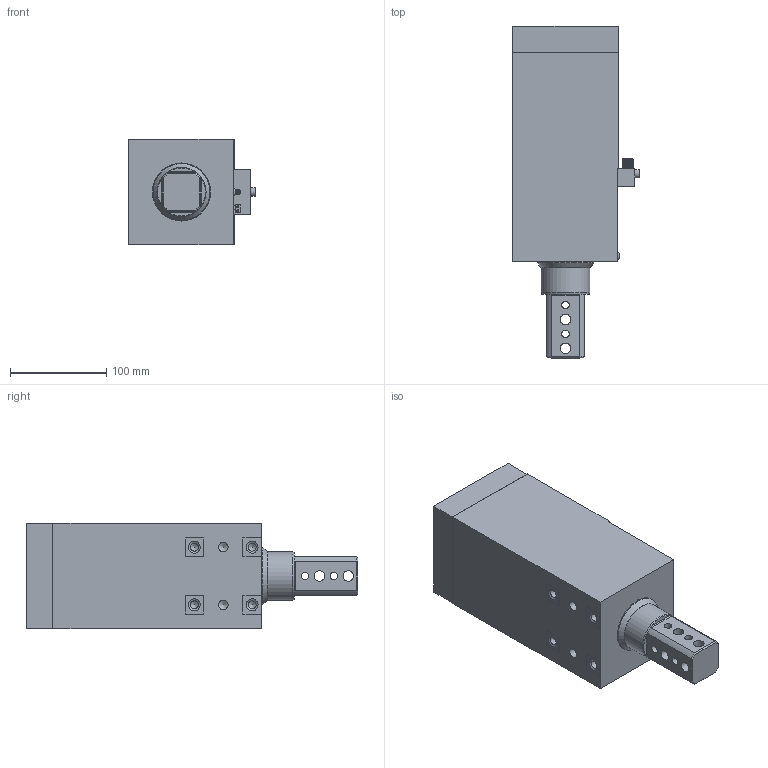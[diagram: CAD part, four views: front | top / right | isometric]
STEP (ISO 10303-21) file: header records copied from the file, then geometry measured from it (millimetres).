
FILE_DESCRIPTION(/* description */ (''),/* implementation_level */ '2;1');
FILE_NAME(/* name */ 'M:\cad\PRODUCT\LSA\LSA - 105\STEP\LSA-105\25mm Stroke\LSA-105 25mm Stroke - Extend.stp',/* time_stamp */ '2018-04-20T09:45:58-04:00',/* author */ ('Tyler'),/* organization */ (''),/* preprocessor_version */ 'ST-DEVELOPER v17',/* originating_system */ 'Autodesk Inventor 2018',/* authorisation */ '');
FILE_SCHEMA (('AUTOMOTIVE_DESIGN { 1 0 10303 214 3 1 1 }'));
Length unit declared in the file: inch
Products named in the file (2): LSA-105 - 25_50 Stroke - Stripped for STEP; LSA-105 - 25_50 Stroke - Stripped for STEP_25 Extend
Assembly tree (1 placements, depth 2):
  LSA-105 - 25_50 Stroke - Stripped for STEP
    LSA-105 - 25_50 Stroke - Stripped for STEP_25 Extend
Bounding box: 131.81 x 345 x 110.01 mm (x, y, z)
Volume: 2356311.8 mm3; surface area: 258377.1 mm2
Topology: 1 solids, 1 shells, 486 faces, 1385 edges, 930 vertices
Faces by surface type: cylinder 214, plane 189, cone 75, torus 5, bspline 2, sphere 1
Full cylindrical faces by diameter (mm): 1 x8, 1.397 x1, 2 x2, 3.175 x2, 3.264 x6, 3.961 x29, 4.14 x5, 4.928 x4, 5 x27, 5.3 x4, 6.35 x1, 6.502 x4, 8.019 x8, 8.3 x1, 8.382 x4, 8.5 x1, 9.169 x1, 9.525 x1, 10.02 x2, 10.49 x4, 10.5 x1, 10.998 x8, 12 x1, 13.894 x1, 14.287 x1, 14.808 x1, 15.083 x1, 17.983 x1, 18.11 x1, 22.174 x2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
Entity records: 22663 total; most frequent: CARTESIAN_POINT 9208, ORIENTED_EDGE 2732, DIRECTION 2707, EDGE_CURVE 1366, AXIS2_PLACEMENT_3D 1044, VERTEX_POINT 930, LINE 619, VECTOR 619
